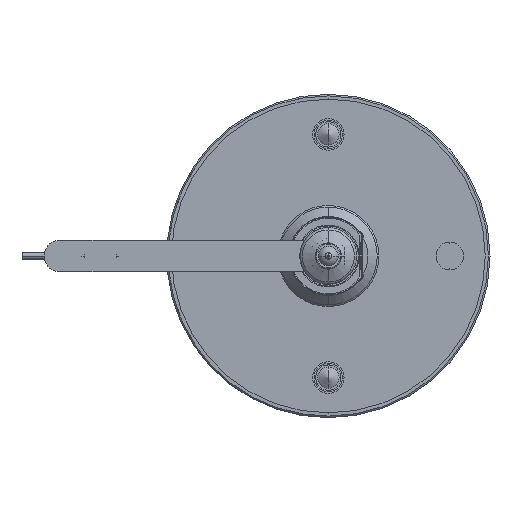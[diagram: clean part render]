
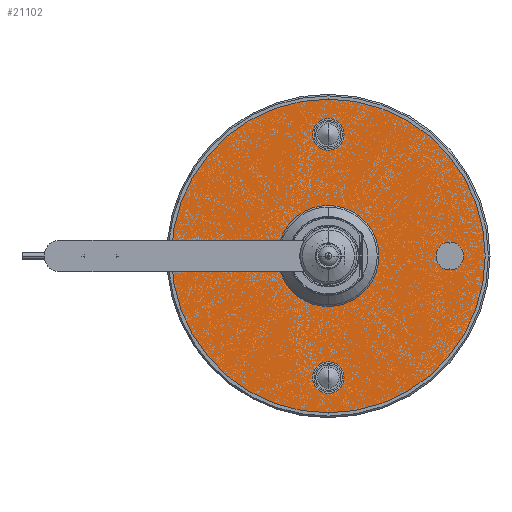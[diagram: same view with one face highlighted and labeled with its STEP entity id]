
A CAD part, front view. The second image highlights one B-rep face of the part: STEP entity #21102.
In plain terms, the highlighted planar face has unit normal (0, -1, 0) as drawn and (0, 0, -1) by its records, which use the part's own axes.
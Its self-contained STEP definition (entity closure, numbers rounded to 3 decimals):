
#199 = AXIS2_PLACEMENT_3D ( 'NONE', #21612, #17913, #7844 ) ;
#329 = FACE_BOUND ( 'NONE', #13678, .T. ) ;
#1040 = CIRCLE ( 'NONE', #20978, 4.4 ) ;
#1116 = VERTEX_POINT ( 'NONE', #4545 ) ;
#1272 = VERTEX_POINT ( 'NONE', #10257 ) ;
#1302 = CARTESIAN_POINT ( 'NONE',  ( 38.5, 0., 0. ) ) ;
#1429 = EDGE_LOOP ( 'NONE', ( #10266, #21636 ) ) ;
#1512 = EDGE_LOOP ( 'NONE', ( #20875, #3439 ) ) ;
#1554 = CARTESIAN_POINT ( 'NONE',  ( -43.5, 0., 0. ) ) ;
#2095 = DIRECTION ( 'NONE',  ( 0., 0., 1. ) ) ;
#2153 = DIRECTION ( 'NONE',  ( 0., 0., 1. ) ) ;
#2392 = PLANE ( 'NONE',  #11662 ) ;
#2400 = ORIENTED_EDGE ( 'NONE', *, *, #24582, .T. ) ;
#2817 = CARTESIAN_POINT ( 'NONE',  ( -4.4, 38.5, 0. ) ) ;
#2972 = CARTESIAN_POINT ( 'NONE',  ( 43.5, 0., 0. ) ) ;
#2995 = ORIENTED_EDGE ( 'NONE', *, *, #5731, .T. ) ;
#3242 = CARTESIAN_POINT ( 'NONE',  ( 0., 38.5, 0. ) ) ;
#3439 = ORIENTED_EDGE ( 'NONE', *, *, #10417, .T. ) ;
#3809 = VERTEX_POINT ( 'NONE', #2817 ) ;
#4133 = EDGE_LOOP ( 'NONE', ( #18532, #2995 ) ) ;
#4258 = VERTEX_POINT ( 'NONE', #6456 ) ;
#4545 = CARTESIAN_POINT ( 'NONE',  ( 33.5, 0., 0. ) ) ;
#4650 = AXIS2_PLACEMENT_3D ( 'NONE', #15365, #13432, #15853 ) ;
#4772 = CIRCLE ( 'NONE', #21461, 5. ) ;
#5191 = CARTESIAN_POINT ( 'NONE',  ( -38.5, 0., 0. ) ) ;
#5409 = EDGE_CURVE ( 'NONE', #1272, #6398, #18408, .T. ) ;
#5731 = EDGE_CURVE ( 'NONE', #23350, #1116, #21682, .T. ) ;
#5800 = VERTEX_POINT ( 'NONE', #23116 ) ;
#5971 = AXIS2_PLACEMENT_3D ( 'NONE', #21677, #11717, #17850 ) ;
#5982 = DIRECTION ( 'NONE',  ( -1., 0., 0. ) ) ;
#6085 = CARTESIAN_POINT ( 'NONE',  ( 10.5, 0., 0. ) ) ;
#6324 = CIRCLE ( 'NONE', #25019, 10.5 ) ;
#6353 = EDGE_CURVE ( 'NONE', #15866, #17227, #7299, .T. ) ;
#6398 = VERTEX_POINT ( 'NONE', #10660 ) ;
#6456 = CARTESIAN_POINT ( 'NONE',  ( 49.675, 0., 0. ) ) ;
#7128 = EDGE_CURVE ( 'NONE', #4258, #21105, #16679, .T. ) ;
#7299 = CIRCLE ( 'NONE', #21544, 5. ) ;
#7317 = AXIS2_PLACEMENT_3D ( 'NONE', #17764, #23632, #19800 ) ;
#7487 = EDGE_LOOP ( 'NONE', ( #17302, #22959 ) ) ;
#7690 = DIRECTION ( 'NONE',  ( 0., 0., 1. ) ) ;
#7826 = DIRECTION ( 'NONE',  ( -1., 0., 0. ) ) ;
#7844 = DIRECTION ( 'NONE',  ( 1., 0., 0. ) ) ;
#8338 = CIRCLE ( 'NONE', #199, 10.5 ) ;
#8984 = CARTESIAN_POINT ( 'NONE',  ( 10.5, 0., 0. ) ) ;
#9199 = DIRECTION ( 'NONE',  ( -1., 0., 0. ) ) ;
#9884 = FACE_BOUND ( 'NONE', #1429, .T. ) ;
#10142 = FACE_BOUND ( 'NONE', #7487, .T. ) ;
#10257 = CARTESIAN_POINT ( 'NONE',  ( 4.4, -38.5, 0. ) ) ;
#10266 = ORIENTED_EDGE ( 'NONE', *, *, #16966, .T. ) ;
#10417 = EDGE_CURVE ( 'NONE', #21105, #4258, #13219, .T. ) ;
#10531 = EDGE_CURVE ( 'NONE', #3809, #24659, #14390, .T. ) ;
#10568 = DIRECTION ( 'NONE',  ( 0., 0., 1. ) ) ;
#10660 = CARTESIAN_POINT ( 'NONE',  ( -4.4, -38.5, 0. ) ) ;
#10960 = VERTEX_POINT ( 'NONE', #8984 ) ;
#11099 = DIRECTION ( 'NONE',  ( 0., 0., 1. ) ) ;
#11662 = AXIS2_PLACEMENT_3D ( 'NONE', #6085, #23923, #13829 ) ;
#11717 = DIRECTION ( 'NONE',  ( 0., 0., 1. ) ) ;
#12092 = CARTESIAN_POINT ( 'NONE',  ( 4.4, 38.5, 0. ) ) ;
#12776 = ORIENTED_EDGE ( 'NONE', *, *, #15797, .T. ) ;
#13152 = DIRECTION ( 'NONE',  ( 0., 0., 1. ) ) ;
#13219 = CIRCLE ( 'NONE', #4650, 49.675 ) ;
#13432 = DIRECTION ( 'NONE',  ( 0., 0., -1. ) ) ;
#13678 = EDGE_LOOP ( 'NONE', ( #2400, #18490 ) ) ;
#13703 = FACE_OUTER_BOUND ( 'NONE', #1512, .T. ) ;
#13829 = DIRECTION ( 'NONE',  ( -1., 0., 0. ) ) ;
#13951 = CARTESIAN_POINT ( 'NONE',  ( -49.675, 0., 0. ) ) ;
#14390 = CIRCLE ( 'NONE', #21331, 4.4 ) ;
#14868 = AXIS2_PLACEMENT_3D ( 'NONE', #5191, #7690, #15457 ) ;
#15365 = CARTESIAN_POINT ( 'NONE',  ( 0., 0., 0. ) ) ;
#15457 = DIRECTION ( 'NONE',  ( -1., 0., 0. ) ) ;
#15797 = EDGE_CURVE ( 'NONE', #5800, #10960, #6324, .T. ) ;
#15853 = DIRECTION ( 'NONE',  ( -1., 0., 0. ) ) ;
#15866 = VERTEX_POINT ( 'NONE', #18477 ) ;
#15880 = FACE_BOUND ( 'NONE', #4133, .T. ) ;
#15966 = AXIS2_PLACEMENT_3D ( 'NONE', #22359, #24508, #16606 ) ;
#16606 = DIRECTION ( 'NONE',  ( -1., 0., 0. ) ) ;
#16679 = CIRCLE ( 'NONE', #7317, 49.675 ) ;
#16823 = EDGE_LOOP ( 'NONE', ( #23303, #12776 ) ) ;
#16966 = EDGE_CURVE ( 'NONE', #17227, #15866, #22223, .T. ) ;
#17227 = VERTEX_POINT ( 'NONE', #1554 ) ;
#17302 = ORIENTED_EDGE ( 'NONE', *, *, #10531, .T. ) ;
#17333 = CARTESIAN_POINT ( 'NONE',  ( -38.5, 0., 0. ) ) ;
#17764 = CARTESIAN_POINT ( 'NONE',  ( 0., 0., 0. ) ) ;
#17850 = DIRECTION ( 'NONE',  ( -1., 0., 0. ) ) ;
#17913 = DIRECTION ( 'NONE',  ( 0., 0., 1. ) ) ;
#18365 = EDGE_CURVE ( 'NONE', #10960, #5800, #8338, .T. ) ;
#18408 = CIRCLE ( 'NONE', #15966, 4.4 ) ;
#18477 = CARTESIAN_POINT ( 'NONE',  ( -33.5, 0., 0. ) ) ;
#18490 = ORIENTED_EDGE ( 'NONE', *, *, #5409, .T. ) ;
#18532 = ORIENTED_EDGE ( 'NONE', *, *, #20702, .T. ) ;
#19549 = CARTESIAN_POINT ( 'NONE',  ( 0., 38.5, 0. ) ) ;
#19779 = CARTESIAN_POINT ( 'NONE',  ( 38.5, 0., 0. ) ) ;
#19800 = DIRECTION ( 'NONE',  ( -1., 0., 0. ) ) ;
#20574 = DIRECTION ( 'NONE',  ( -1., 0., 0. ) ) ;
#20702 = EDGE_CURVE ( 'NONE', #1116, #23350, #4772, .T. ) ;
#20875 = ORIENTED_EDGE ( 'NONE', *, *, #7128, .T. ) ;
#20978 = AXIS2_PLACEMENT_3D ( 'NONE', #19549, #2095, #7826 ) ;
#21102 = ADVANCED_FACE ( 'NONE', ( #13703, #329, #10142, #15880, #9884, #23554 ), #2392, .T. ) ;
#21105 = VERTEX_POINT ( 'NONE', #13951 ) ;
#21196 = DIRECTION ( 'NONE',  ( 0., 0., 1. ) ) ;
#21331 = AXIS2_PLACEMENT_3D ( 'NONE', #3242, #13152, #20574 ) ;
#21461 = AXIS2_PLACEMENT_3D ( 'NONE', #19779, #21196, #23247 ) ;
#21544 = AXIS2_PLACEMENT_3D ( 'NONE', #17333, #2153, #5982 ) ;
#21612 = CARTESIAN_POINT ( 'NONE',  ( 0., 0., 0. ) ) ;
#21636 = ORIENTED_EDGE ( 'NONE', *, *, #6353, .T. ) ;
#21677 = CARTESIAN_POINT ( 'NONE',  ( 0., -38.5, 0. ) ) ;
#21682 = CIRCLE ( 'NONE', #24921, 5. ) ;
#22223 = CIRCLE ( 'NONE', #14868, 5. ) ;
#22359 = CARTESIAN_POINT ( 'NONE',  ( 0., -38.5, 0. ) ) ;
#22854 = EDGE_CURVE ( 'NONE', #24659, #3809, #1040, .T. ) ;
#22959 = ORIENTED_EDGE ( 'NONE', *, *, #22854, .T. ) ;
#23116 = CARTESIAN_POINT ( 'NONE',  ( -10.5, 0., 0. ) ) ;
#23247 = DIRECTION ( 'NONE',  ( -1., 0., 0. ) ) ;
#23303 = ORIENTED_EDGE ( 'NONE', *, *, #18365, .T. ) ;
#23350 = VERTEX_POINT ( 'NONE', #2972 ) ;
#23554 = FACE_BOUND ( 'NONE', #16823, .T. ) ;
#23632 = DIRECTION ( 'NONE',  ( 0., 0., -1. ) ) ;
#23872 = CIRCLE ( 'NONE', #5971, 4.4 ) ;
#23923 = DIRECTION ( 'NONE',  ( 0., 0., -1. ) ) ;
#24216 = CARTESIAN_POINT ( 'NONE',  ( 0., 0., 0. ) ) ;
#24466 = DIRECTION ( 'NONE',  ( 1., 0., 0. ) ) ;
#24508 = DIRECTION ( 'NONE',  ( 0., 0., 1. ) ) ;
#24582 = EDGE_CURVE ( 'NONE', #6398, #1272, #23872, .T. ) ;
#24659 = VERTEX_POINT ( 'NONE', #12092 ) ;
#24921 = AXIS2_PLACEMENT_3D ( 'NONE', #1302, #11099, #9199 ) ;
#25019 = AXIS2_PLACEMENT_3D ( 'NONE', #24216, #10568, #24466 ) ;
